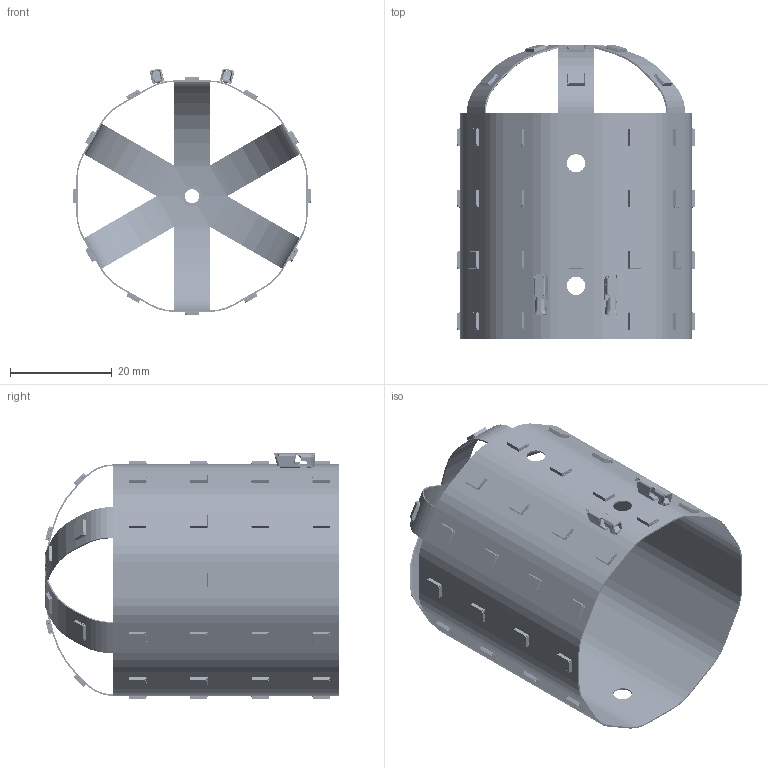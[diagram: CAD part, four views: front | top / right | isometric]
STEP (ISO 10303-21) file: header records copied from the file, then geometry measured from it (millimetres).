
FILE_DESCRIPTION (( 'STEP AP214' ), '1' );
FILE_NAME ('LUXTECH Assembled LUXsphere mini 3D Model.STEP', '2026-01-20T16:54:56', ( '' ), ( '' ), 'SwSTEP 2.0', 'SolidWorks 2023', '' );
FILE_SCHEMA (( 'AUTOMOTIVE_DESIGN' ));
Length unit declared in the file: inch
Products named in the file (4): Bent LUXsphere mini; Cree J Series 2835_180; LUXTECH Assembled LUXsphere mini 3D Model; BJB 46.110.1001
Assembly tree (63 placements, depth 2):
  LUXTECH Assembled LUXsphere mini 3D Model
    Bent LUXsphere mini
    Cree J Series 2835_180  x60
    BJB 46.110.1001  x2
Bounding box: 46.97 x 57.9 x 48.6 mm (x, y, z)
Volume: 2671.1 mm3; surface area: 20359.8 mm2
Topology: 721 solids, 741 shells, 25275 faces, 71346 edges, 47530 vertices
Faces by surface type: cylinder 14250, plane 10931, bspline 94
Entity records: 43367 total; most frequent: CARTESIAN_POINT 12830, ORIENTED_EDGE 4609, DIRECTION 4368, EDGE_CURVE 2326, VERTEX_POINT 1525, AXIS2_PLACEMENT_3D 1498, LINE 1372, VECTOR 1372
